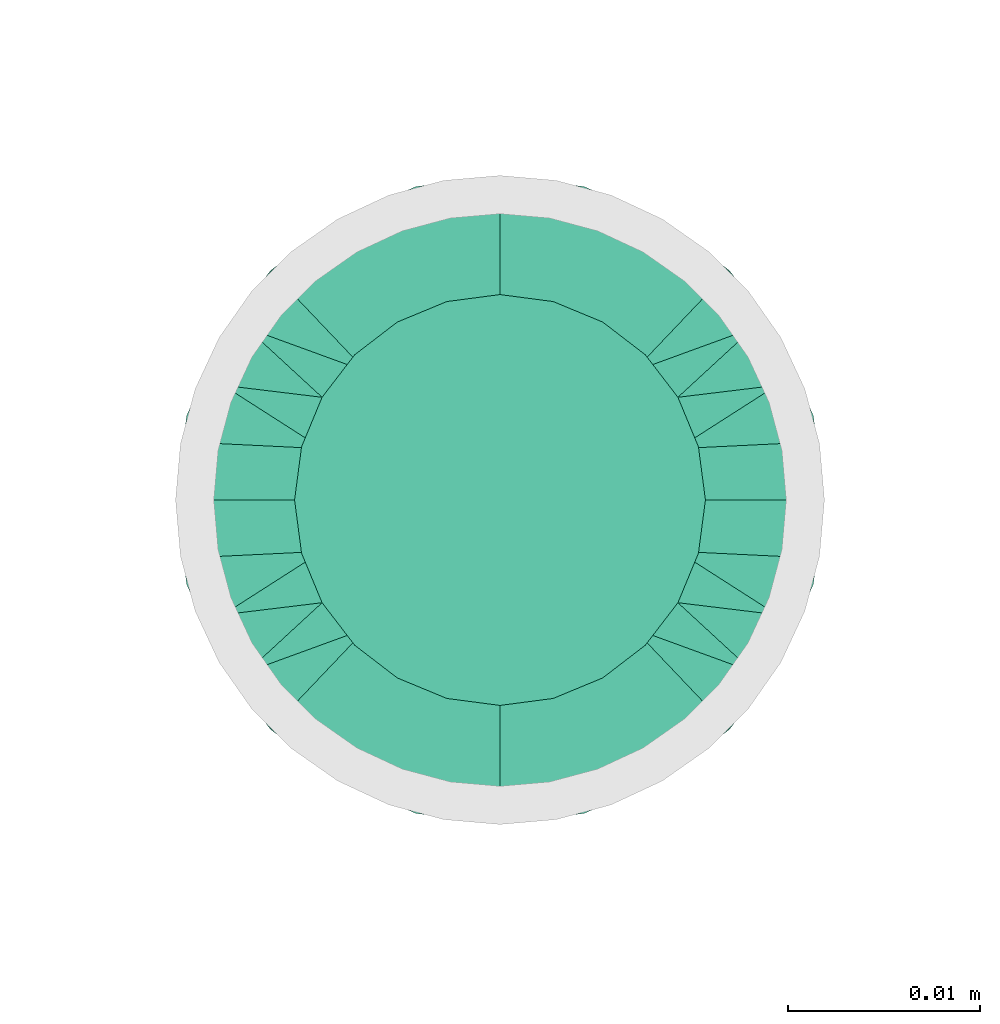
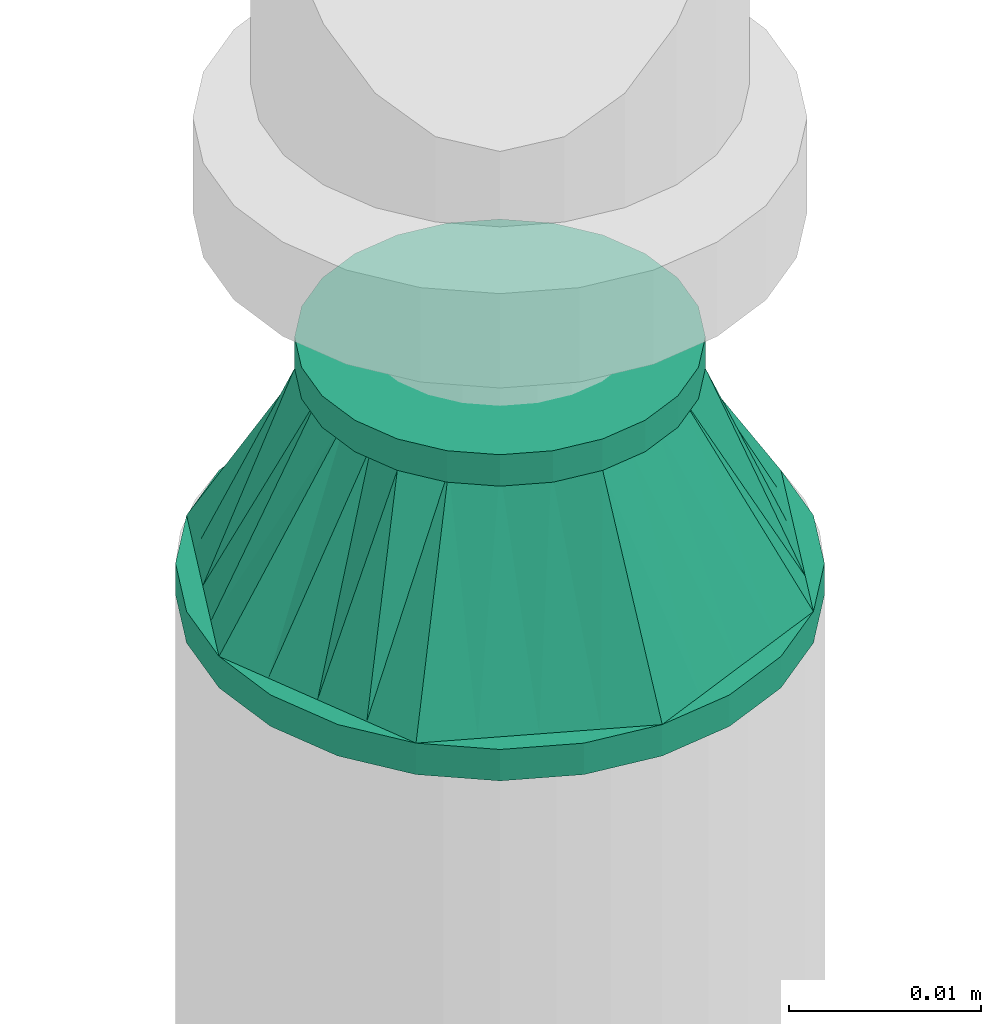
# One storey, part 3 of 44: 1 flow fitting.
"""IFC2X3 building model written with IfcOpenShell, lengths in millimetres."""

from ifc_helpers import new_model, entity, si_unit, converted_unit, derived_unit, direction, frame, origin_with_axes, place, context, subcontext, project, spatial, open_shell, surface_model, source, transform, mapped, type_object, element, save


model = new_model("IFC2X3")

# Units and contexts
model_context = context("Model", 3, precision=0.01, world=frame((0.0, 4.29681676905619e-09, 0.0)), true_north=direction((4.01073788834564e-13, 1.0)))
plan_context = context("Plan", 3, precision=0.01, world=frame((0.0, 4.29681676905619e-09, 0.0)), true_north=direction((4.01073788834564e-13, 1.0)))
body_context = subcontext(model_context, "Body", "Model", "MODEL_VIEW")
ifc_project = project(units=[converted_unit("PLANEANGLEUNIT", "DEGREE", entity("IfcPositiveLengthMeasure", 0.0174532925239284), si_unit("PLANEANGLEUNIT", "RADIAN"), dimensions=[0, 0, 0, 0, 0, 0, 0]), si_unit("AREAUNIT", "SQUARE_METRE"), si_unit("LENGTHUNIT", "METRE", prefix="MILLI"), si_unit("MASSUNIT", "GRAM", prefix="KILO"), si_unit("POWERUNIT", "WATT"), si_unit("PRESSUREUNIT", "PASCAL"), si_unit("FORCEUNIT", "NEWTON", prefix="KILO"), si_unit("ELECTRICVOLTAGEUNIT", "VOLT"), si_unit("ELECTRICCURRENTUNIT", "AMPERE"), si_unit("THERMODYNAMICTEMPERATUREUNIT", "DEGREE_CELSIUS"), si_unit("TIMEUNIT", "SECOND"), si_unit("VOLUMEUNIT", "CUBIC_METRE"), derived_unit("LINEARVELOCITYUNIT", [(si_unit("LENGTHUNIT", "METRE"), 1), (si_unit("TIMEUNIT", "SECOND"), -1)]), derived_unit("VOLUMETRICFLOWRATEUNIT", [(si_unit("VOLUMEUNIT", "CUBIC_METRE"), 1), (si_unit("TIMEUNIT", "SECOND"), -1)]), derived_unit("THERMALTRANSMITTANCEUNIT", [(si_unit("POWERUNIT", "WATT"), 1), (si_unit("THERMODYNAMICTEMPERATUREUNIT", "KELVIN"), -1), (si_unit("AREAUNIT", "SQUARE_METRE"), -1)]), derived_unit("SOUNDPRESSUREUNIT", [(si_unit("PRESSUREUNIT", "PASCAL"), 1)])], contexts=[model_context, plan_context])

# Site, building, storey
site_placement = place(None, frame((0.0, -4.29681676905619e-09, 0.0), z_axis=(0.0, 0.0, 1.0), x_axis=(1.0, 0.0, 0.0)))
site = spatial("IfcSite", under=ifc_project, at=site_placement, CompositionType="ELEMENT")
building_placement = place(site_placement, frame((0.0, 4.29681676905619e-09, 0.0), z_axis=(0.0, 0.0, 1.0), x_axis=(1.0, 0.0, 0.0)))
building = spatial("IfcBuilding", under=site, at=building_placement, Name="mc-building", CompositionType="ELEMENT")
storey_placement = place(building_placement, frame((0.0, 0.0, 207370.0), z_axis=(0.0, 0.0, 1.0), x_axis=(1.0, 0.0, 0.0)))
storey = spatial("IfcBuildingStorey", under=building, at=storey_placement, Name="Nivå E", CompositionType="ELEMENT", Elevation=207370.0)

# Flow fitting
pipe_fitting_type = type_object("IfcPipeFittingType", Name="magi_pipe_fe_reducer_centric_short_NOR", PredefinedType="TRANSITION")
shared_shape = source(origin_with_axes(), body_context, "Body", "SurfaceModel", [
    surface_model("IfcShellBasedSurfaceModel", [(-2.0, -7.56604, -7.56604), (-2.0, -10.33541, -2.76936), (-2.0, -5.35, -9.26647), (-2.0, 5.35, -9.26647), (-2.0, 10.33541, -2.76936), (-2.0, 7.56604, -7.56604), (12.4, 11.9501, 11.9501), (12.4, 0.0, 16.9), (12.4, 11.9501, -11.9501), (12.4, 16.9, 0.0), (0.0, -10.7, 0.0), (0.0, -5.35, 9.26647), (0.0, -5.35, -9.26647), (0.0, 10.7, 0.0), (12.4, 15.66253, -2.98753), (12.4, 8.96258, -13.18758), (0.0, 6.6875, -6.94985), (12.4, -15.66253, -2.98753), (12.4, -16.9, 0.0), (12.4, 5.97505, -14.42505), (0.0, 5.35, -9.26647), (12.4, 14.42505, -5.97505), (0.0, 8.025, -4.63324), (0.0, 9.3625, -2.31662), (0.0, -9.3625, -2.31662), (0.0, -8.025, -4.63324), (12.4, -14.42505, -5.97505), (12.4, 13.18758, -8.96258), (12.4, -13.18758, -8.96258), (12.4, -11.9501, -11.9501), (0.0, -6.6875, -6.94985), (12.4, -8.96258, -13.18758), (12.4, -5.97505, -14.42505), (12.4, -15.66253, 2.98753), (12.4, -8.96258, 13.18758), (0.0, -6.6875, 6.94985), (12.4, -11.9501, 11.9501), (12.4, 15.66253, 2.98753), (12.4, -5.97505, 14.42505), (12.4, -14.42505, 5.97505), (0.0, -8.025, 4.63324), (0.0, -9.3625, 2.31662), (0.0, 9.3625, 2.31662), (0.0, 8.025, 4.63324), (12.4, 14.42505, 5.97505), (12.4, -13.18758, 8.96258), (12.4, 13.18758, 8.96258), (0.0, 6.6875, 6.94985), (12.4, 8.96258, 13.18758), (0.0, 5.35, 9.26647), (12.4, 5.97505, 14.42505), (14.4, 4.37404, -16.32415), (14.4, 8.45, -14.63583), (14.4, 11.9501, -11.9501), (14.4, -8.45, -14.63583), (14.4, 16.32415, -4.37404), (14.4, 16.32415, 4.37404), (14.4, 14.63583, -8.45), (14.4, 0.0, -16.9), (14.4, -4.37404, -16.32415), (14.4, -11.9501, -11.9501), (14.4, -16.32415, -4.37404), (14.4, -14.63583, -8.45), (14.4, -16.32415, 4.37404), (14.4, 16.9, 0.0), (14.4, 14.63583, 8.45), (14.4, 11.9501, 11.9501), (14.4, 4.37404, 16.32415), (14.4, 8.45, 14.63583), (14.4, 0.0, 16.9), (14.4, -14.63583, 8.45), (14.4, -16.9, 0.0), (14.4, -8.45, 14.63583), (14.4, -11.9501, 11.9501), (14.4, -4.37404, 16.32415), (12.4, 4.37404, 16.32415), (12.4, -14.63583, 8.45), (12.4, 16.32415, 4.37404), (12.4, 8.45, 14.63583), (12.4, 14.63583, 8.45), (12.4, -8.45, 14.63583), (12.4, -4.37404, 16.32415), (12.4, -16.32415, 4.37404), (12.4, -16.32415, -4.37404), (12.4, -8.45, -14.63583), (12.4, 16.32415, -4.37404), (12.4, 14.63583, -8.45), (12.4, 8.45, -14.63583), (12.4, 4.37404, -16.32415), (12.4, 0.0, -16.9), (12.4, -14.63583, -8.45), (12.4, -4.37404, -16.32415), (-2.0, 2.76936, 10.33541), (-2.0, 0.0, 10.7), (-2.0, 5.35, 9.26647), (-2.0, 7.56604, 7.56604), (-2.0, 9.26647, 5.35), (-2.0, 10.33541, 2.76936), (-2.0, -10.33541, 2.76936), (-2.0, -2.76936, 10.33541), (-2.0, -7.56604, 7.56604), (-2.0, -5.35, 9.26647), (-2.0, -9.26647, 5.35), (-2.0, -10.7, 0.0), (-2.0, 9.26647, -5.35), (-2.0, 2.76936, -10.33541), (-2.0, -9.26647, -5.35), (-2.0, 0.0, -10.7), (-2.0, -2.76936, -10.33541), (-2.0, 10.7, 0.0), (0.0, 0.0, -10.7), (0.0, 2.76936, -10.33541), (0.0, 10.33541, -2.76936), (0.0, 7.56604, -7.56604), (0.0, -10.33541, -2.76936), (0.0, 9.26647, -5.35), (0.0, 0.0, 10.7), (0.0, -2.76936, -10.33541), (0.0, -7.56604, -7.56604), (0.0, -9.26647, -5.35), (0.0, 10.33541, 2.76936), (0.0, 9.26647, 5.35), (0.0, 7.56604, 7.56604), (0.0, 2.76936, 10.33541), (0.0, -7.56604, 7.56604), (0.0, -10.33541, 2.76936), (0.0, -9.26647, 5.35), (0.0, -2.76936, 10.33541), (0.0, 2.675, -9.26647), (0.0, -2.675, -9.26647), (12.4, 2.98753, -15.66253), (0.0, 0.0, -9.26647), (12.4, -2.98753, -15.66253), (0.0, -2.675, 9.26647), (0.0, 2.675, 9.26647), (12.4, -2.98753, 15.66253), (0.0, 0.0, 9.26647), (12.4, 2.98753, 15.66253)], [open_shell([[[0, 1, 2]], [[3, 4, 5]], [[6, 7, 8]], [[8, 9, 6]], [[10, 11, 12]], [[13, 9, 14]], [[15, 16, 8]], [[17, 18, 10]], [[15, 19, 20]], [[21, 22, 23]], [[24, 25, 26]], [[22, 21, 27]], [[28, 26, 25]], [[29, 30, 31]], [[12, 32, 31]], [[10, 18, 33]], [[34, 35, 36]], [[37, 9, 13]], [[34, 38, 11]], [[39, 40, 41]], [[42, 43, 44]], [[40, 39, 45]], [[46, 44, 43]], [[6, 47, 48]], [[49, 50, 48]], [[51, 52, 53]], [[54, 51, 53]], [[53, 55, 56]], [[55, 53, 57]], [[53, 56, 54]], [[58, 54, 59]], [[58, 51, 54]], [[60, 61, 62]], [[61, 60, 54]], [[54, 63, 61]], [[56, 55, 64]], [[56, 65, 66]], [[56, 66, 67]], [[67, 63, 54]], [[67, 66, 68]], [[63, 67, 69]], [[69, 70, 63]], [[71, 61, 63]], [[70, 72, 73]], [[70, 69, 72]], [[72, 69, 74]], [[54, 56, 67]], [[75, 76, 7]], [[77, 75, 78]], [[6, 79, 77]], [[6, 77, 78]], [[76, 75, 77]], [[80, 76, 36]], [[80, 81, 7]], [[7, 76, 80]], [[82, 76, 77]], [[82, 83, 18]], [[82, 77, 84]], [[77, 85, 8]], [[8, 85, 86]], [[8, 87, 88]], [[84, 77, 8]], [[88, 89, 8]], [[83, 29, 90]], [[29, 83, 84]], [[84, 89, 91]], [[83, 82, 84]], [[8, 89, 84]], [[85, 77, 9]], [[83, 61, 18]], [[90, 62, 83]], [[54, 29, 84]], [[90, 29, 60]], [[59, 84, 91]], [[83, 62, 61]], [[61, 71, 18]], [[59, 54, 84]], [[60, 29, 54]], [[60, 62, 90]], [[58, 59, 91]], [[91, 89, 58]], [[88, 51, 89]], [[87, 52, 88]], [[57, 8, 86]], [[87, 8, 53]], [[55, 86, 85]], [[87, 53, 52]], [[52, 51, 88]], [[64, 55, 85]], [[57, 86, 55]], [[57, 53, 8]], [[9, 64, 85]], [[89, 51, 58]], [[77, 56, 9]], [[79, 65, 77]], [[68, 6, 78]], [[79, 6, 66]], [[67, 78, 75]], [[77, 65, 56]], [[56, 64, 9]], [[67, 68, 78]], [[66, 6, 68]], [[66, 65, 79]], [[69, 67, 75]], [[75, 7, 69]], [[81, 74, 7]], [[80, 72, 81]], [[70, 36, 76]], [[80, 36, 73]], [[63, 76, 82]], [[80, 73, 72]], [[72, 74, 81]], [[71, 63, 82]], [[70, 76, 63]], [[70, 73, 36]], [[18, 71, 82]], [[7, 74, 69]], [[92, 1, 93]], [[94, 1, 92]], [[95, 96, 97]], [[95, 97, 94]], [[98, 93, 1]], [[99, 100, 101]], [[99, 93, 100]], [[100, 98, 102]], [[93, 98, 100]], [[98, 1, 103]], [[94, 97, 1]], [[1, 97, 4]], [[5, 4, 104]], [[4, 3, 1]], [[105, 1, 3]], [[1, 0, 106]], [[2, 107, 108]], [[2, 1, 105]], [[105, 107, 2]], [[4, 97, 109]], [[20, 110, 111]], [[112, 20, 113]], [[114, 20, 112]], [[112, 113, 115]], [[116, 114, 112]], [[110, 12, 117]], [[110, 20, 12]], [[118, 114, 119]], [[114, 118, 12]], [[20, 114, 12]], [[112, 13, 120]], [[120, 121, 122]], [[120, 122, 123]], [[116, 112, 123]], [[123, 122, 49]], [[116, 124, 114]], [[125, 124, 126]], [[10, 114, 125]], [[124, 127, 11]], [[125, 114, 124]], [[127, 124, 116]], [[123, 112, 120]], [[1, 114, 103]], [[106, 119, 1]], [[12, 0, 2]], [[106, 0, 118]], [[117, 2, 108]], [[1, 119, 114]], [[114, 10, 103]], [[117, 12, 2]], [[118, 0, 12]], [[118, 119, 106]], [[110, 117, 108]], [[108, 107, 110]], [[105, 111, 107]], [[3, 20, 105]], [[115, 5, 104]], [[3, 5, 113]], [[112, 104, 4]], [[3, 113, 20]], [[20, 111, 105]], [[13, 112, 4]], [[115, 104, 112]], [[115, 113, 5]], [[109, 13, 4]], [[107, 111, 110]], [[97, 120, 109]], [[96, 121, 97]], [[49, 95, 94]], [[96, 95, 122]], [[123, 94, 92]], [[97, 121, 120]], [[120, 13, 109]], [[123, 49, 94]], [[122, 95, 49]], [[122, 121, 96]], [[116, 123, 92]], [[92, 93, 116]], [[99, 127, 93]], [[101, 11, 99]], [[126, 100, 102]], [[101, 100, 124]], [[125, 102, 98]], [[101, 124, 11]], [[11, 127, 99]], [[10, 125, 98]], [[126, 102, 125]], [[126, 124, 100]], [[103, 10, 98]], [[93, 127, 116]], [[18, 7, 36]], [[18, 29, 8]], [[89, 8, 29]], [[18, 8, 7]], [[13, 11, 49]], [[13, 20, 12]], [[13, 12, 11]], [[24, 26, 17]], [[10, 24, 17]], [[16, 15, 20]], [[30, 12, 31]], [[23, 14, 21]], [[19, 128, 20]], [[27, 8, 16]], [[32, 12, 129]], [[30, 28, 25]], [[130, 131, 128]], [[129, 132, 32]], [[16, 22, 27]], [[13, 14, 23]], [[128, 19, 130]], [[130, 89, 131]], [[131, 132, 129]], [[89, 132, 131]], [[28, 30, 29]], [[42, 44, 37]], [[13, 42, 37]], [[35, 34, 11]], [[47, 49, 48]], [[41, 33, 39]], [[38, 133, 11]], [[45, 36, 35]], [[50, 49, 134]], [[47, 46, 43]], [[135, 136, 133]], [[134, 137, 50]], [[35, 40, 45]], [[10, 33, 41]], [[133, 38, 135]], [[135, 7, 136]], [[136, 137, 134]], [[7, 137, 136]], [[46, 47, 6]]])]),
])
flow_fitting_placement = place(storey_placement, frame((524500.5875, 447269.83177, 3040.00555), z_axis=(1.0, 0.0, 0.0), x_axis=(0.0, 0.0, -1.0)))
element("IfcFlowFitting", 1, at=flow_fitting_placement, inside=storey, type_object=pipe_fitting_type, Name="magi_pipe_fe_reducer_centric_short_NOR", context=body_context, shape_type="MappedRepresentation", body=[
    mapped(shared_shape, transform((0.0, 0.0, 0.0), scale=1.0)),
])

save(model, "model.ifc")
